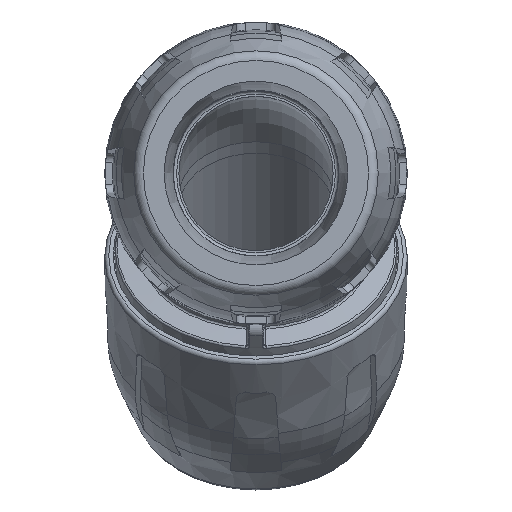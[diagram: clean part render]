
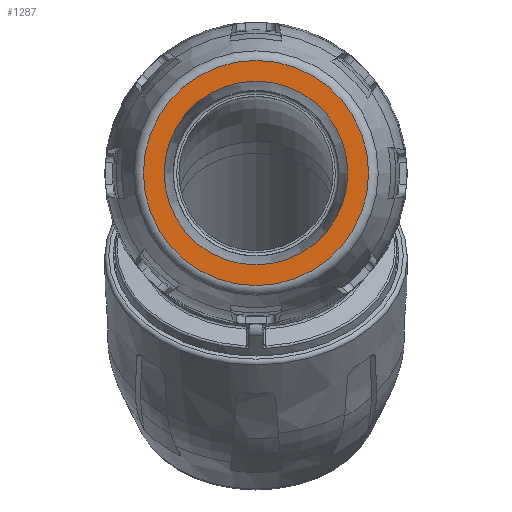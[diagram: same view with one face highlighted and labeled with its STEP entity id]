
A CAD part, top view. The second image highlights one B-rep face of the part: STEP entity #1287.
In plain terms, the highlighted planar face has unit normal (0, 0, 1).
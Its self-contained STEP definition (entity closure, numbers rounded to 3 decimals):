
#1287 = ADVANCED_FACE( '', ( #2745, #2746 ), #2747, .T. );
#2745 = FACE_OUTER_BOUND( '', #7975, .T. );
#2746 = FACE_BOUND( '', #7976, .T. );
#2747 = PLANE( '', #7977 );
#7975 = EDGE_LOOP( '', ( #12768 ) );
#7976 = EDGE_LOOP( '', ( #12769 ) );
#7977 = AXIS2_PLACEMENT_3D( '', #12770, #12771, #12772 );
#12768 = ORIENTED_EDGE( '', *, *, #14178, .F. );
#12769 = ORIENTED_EDGE( '', *, *, #15438, .F. );
#12770 = CARTESIAN_POINT( '', ( 22.627, 0., 21.938 ) );
#12771 = DIRECTION( '', ( 0., 0., 1. ) );
#12772 = DIRECTION( '', ( -1., 0., 0. ) );
#14178 = EDGE_CURVE( '', #16160, #16160, #16161, .T. );
#15438 = EDGE_CURVE( '', #18075, #18075, #18076, .T. );
#16160 = VERTEX_POINT( '', #19738 );
#16161 = CIRCLE( '', #19739, 27.727 );
#18075 = VERTEX_POINT( '', #24730 );
#18076 = CIRCLE( '', #24731, 22.627 );
#19738 = CARTESIAN_POINT( '', ( 27.727, 0., 21.938 ) );
#19739 = AXIS2_PLACEMENT_3D( '', #25905, #25906, #25907 );
#24730 = CARTESIAN_POINT( '', ( 22.627, 0., 21.938 ) );
#24731 = AXIS2_PLACEMENT_3D( '', #27357, #27358, #27359 );
#25905 = CARTESIAN_POINT( '', ( 0., 0., 21.938 ) );
#25906 = DIRECTION( '', ( 0., 0., -1. ) );
#25907 = DIRECTION( '', ( 1., 0., 0. ) );
#27357 = CARTESIAN_POINT( '', ( 0., 0., 21.938 ) );
#27358 = DIRECTION( '', ( 0., 0., 1. ) );
#27359 = DIRECTION( '', ( 1., 0., 0. ) );
